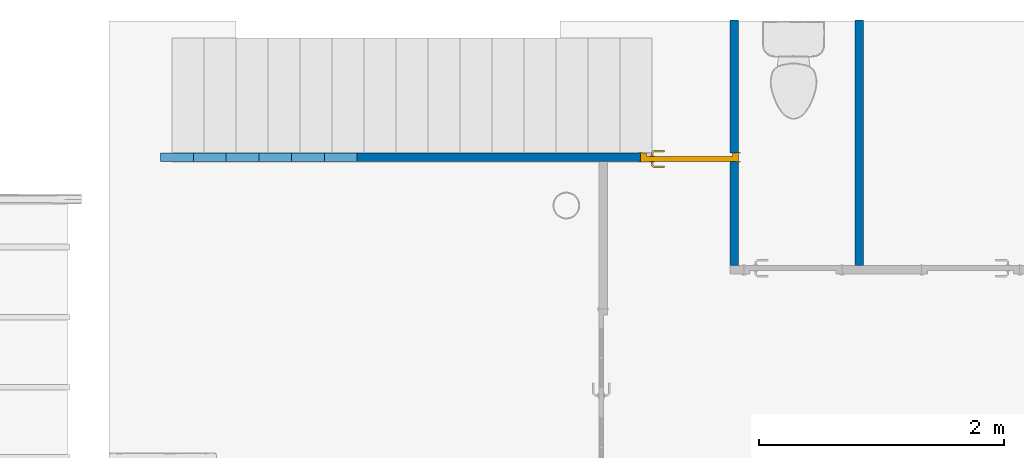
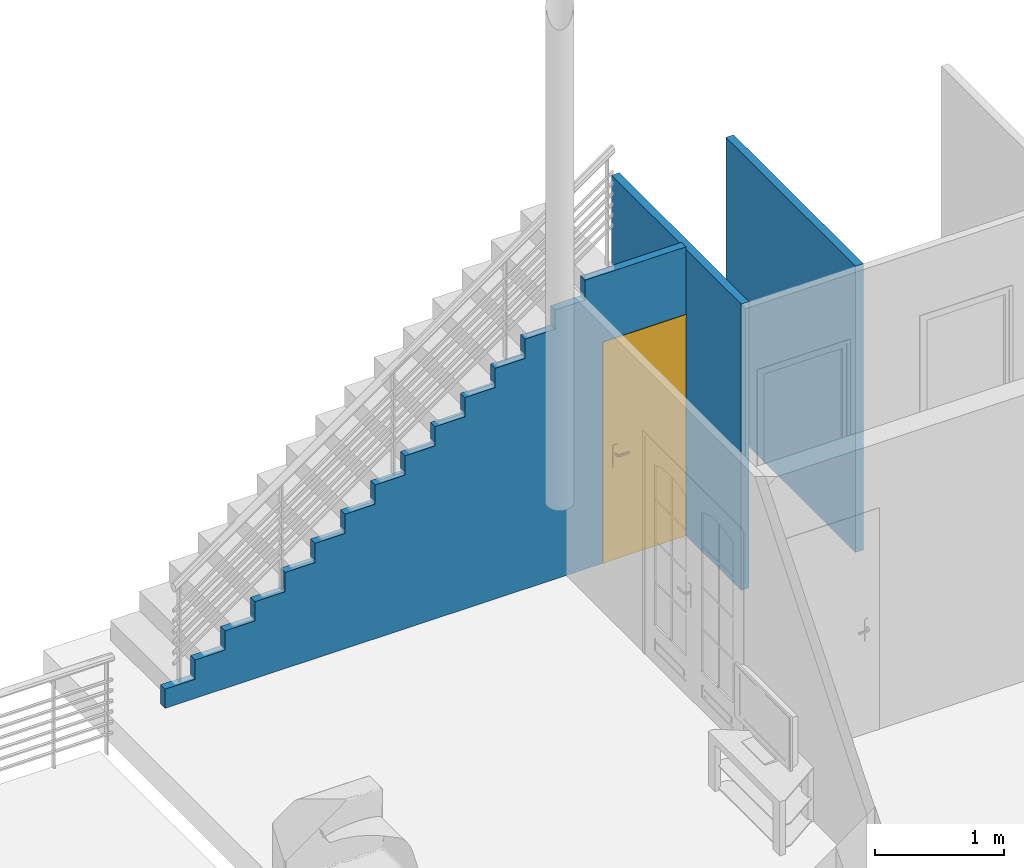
# One storey, part 6 of 15: 3 walls, 1 door, 3 openings.
"""IFC2X3 building model written with IfcOpenShell, lengths in metres."""

from ifc_helpers import new_model, entity, si_unit, converted_unit, derived_unit, direction, frame, frame_2d, origin, place, context, subcontext, project, spatial, polyline, rectangle, outline, extrude, clip, halfspace, bounded_halfspace, faceted_brep, source, transform, mapped, material, material_list, layer, layer_set, layer_usage, type_object, type_shapes, element, fill, save


model = new_model("IFC2X3")

# Units and contexts
model_context = context("Model", 3, precision=1e-05, world=origin(), true_north=direction((6.12303176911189e-17, 1.0)))
body_context = subcontext(model_context, "Body", "Model", "MODEL_VIEW")
ifc_project = project(units=[si_unit("LENGTHUNIT", "METRE"), si_unit("AREAUNIT", "SQUARE_METRE"), si_unit("VOLUMEUNIT", "CUBIC_METRE"), converted_unit("PLANEANGLEUNIT", "DEGREE", entity("IfcRatioMeasure", 0.0174532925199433), si_unit("PLANEANGLEUNIT", "RADIAN"), dimensions=[0, 0, 0, 0, 0, 0, 0]), si_unit("MASSUNIT", "GRAM", prefix="KILO"), derived_unit("MASSDENSITYUNIT", [(si_unit("MASSUNIT", "GRAM", prefix="KILO"), 1), (si_unit("LENGTHUNIT", "METRE"), -3)]), derived_unit("MOMENTOFINERTIAUNIT", [(si_unit("LENGTHUNIT", "METRE"), 4)]), si_unit("TIMEUNIT", "SECOND"), si_unit("FREQUENCYUNIT", "HERTZ"), si_unit("THERMODYNAMICTEMPERATUREUNIT", "DEGREE_CELSIUS"), derived_unit("THERMALTRANSMITTANCEUNIT", [(si_unit("MASSUNIT", "GRAM", prefix="KILO"), 1), (si_unit("THERMODYNAMICTEMPERATUREUNIT", "KELVIN"), -1), (si_unit("TIMEUNIT", "SECOND"), -3)]), derived_unit("VOLUMETRICFLOWRATEUNIT", [(si_unit("LENGTHUNIT", "METRE"), 3), (si_unit("TIMEUNIT", "SECOND"), -1)]), si_unit("ELECTRICCURRENTUNIT", "AMPERE"), si_unit("ELECTRICVOLTAGEUNIT", "VOLT"), si_unit("POWERUNIT", "WATT"), si_unit("FORCEUNIT", "NEWTON", prefix="KILO"), si_unit("ILLUMINANCEUNIT", "LUX"), si_unit("LUMINOUSFLUXUNIT", "LUMEN"), si_unit("LUMINOUSINTENSITYUNIT", "CANDELA"), derived_unit("USERDEFINED", [(si_unit("MASSUNIT", "GRAM", prefix="KILO"), -1), (si_unit("LENGTHUNIT", "METRE"), -2), (si_unit("TIMEUNIT", "SECOND"), 3), (si_unit("LUMINOUSFLUXUNIT", "LUMEN"), 1)]), derived_unit("LINEARVELOCITYUNIT", [(si_unit("LENGTHUNIT", "METRE"), 1), (si_unit("TIMEUNIT", "SECOND"), -1)]), si_unit("PRESSUREUNIT", "PASCAL"), derived_unit("USERDEFINED", [(si_unit("LENGTHUNIT", "METRE"), -2), (si_unit("MASSUNIT", "GRAM", prefix="KILO"), 1), (si_unit("TIMEUNIT", "SECOND"), -2)]), derived_unit("LINEARFORCEUNIT", [(si_unit("MASSUNIT", "GRAM", prefix="KILO"), 1), (si_unit("LENGTHUNIT", "METRE"), 1), (si_unit("TIMEUNIT", "SECOND"), -2), (si_unit("LENGTHUNIT", "METRE"), -1)]), derived_unit("PLANARFORCEUNIT", [(si_unit("MASSUNIT", "GRAM", prefix="KILO"), 1), (si_unit("LENGTHUNIT", "METRE"), 1), (si_unit("TIMEUNIT", "SECOND"), -2), (si_unit("LENGTHUNIT", "METRE"), -2)])], contexts=[model_context])

# Site, building, storey
site_placement = place(None, origin())
site = spatial("IfcSite", under=ifc_project, at=site_placement, Name="Surface", CompositionType="ELEMENT")
building_placement = place(site_placement, origin())
building = spatial("IfcBuilding", under=site, at=building_placement, CompositionType="ELEMENT")
storey_placement = place(building_placement, frame((0.0, 0.0, 2.65)))
storey = spatial("IfcBuildingStorey", under=building, at=storey_placement, Name="Niveau étage", CompositionType="ELEMENT", Elevation=2.65)

# Wall, openings, door
ifc_material_1 = material(Name="Mur par défaut")
ifc_layer = layer(ifc_material_1, 0.07)
ifc_layer_set = layer_set([ifc_layer], Name="Mur de base:Int. Plâtre 7cm")
ifc_layer_usage_1 = layer_usage(ifc_layer_set, "AXIS2", "NEGATIVE", 0.035)
wall_type = type_object("IfcWallType", Name="Mur de base:Int. Plâtre 7cm", PredefinedType="STANDARD", material=ifc_layer_set)
wall_1_placement = place(storey_placement, frame((2.31226672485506, 5.88973483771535, 0.0)))
wall_1 = element("IfcWallStandardCase", 1, at=wall_1_placement, inside=storey, type_object=wall_type, material=ifc_layer_usage_1, Name="Mur de base:Int. Plâtre 7cm", ObjectType="Mur de base:Int. Plâtre 7cm", context=body_context, shape_type="Clipping", body=[
    clip(extrude(rectangle(XDim=4.64712935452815, YDim=0.0699999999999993, at=frame_2d((2.32356467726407, -1.90819582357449e-16), x_axis=(-1.0, 0.0))), origin(), (0.0, 0.0, 1.0), 2.72499999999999), halfspace(frame((3.745, -0.0350000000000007, 2.72499999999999), z_axis=(0.0, 0.0, 1.0), x_axis=(0.0, 1.0, 0.0)), False)),
])
opening_1_placement = place(wall_1_placement, origin())
element("IfcOpeningElement", 2, at=opening_1_placement, cuts=wall_1, Name="Mur de base:Int. Plâtre 7cm", ObjectType="Opening", context=body_context, shape_type="SweptSolid", body=[
    extrude(outline(polyline([(-1.8725, -1.27458333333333), (1.8725, -1.27458333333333), (1.8725, 1.26916666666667), (1.605, 1.26916666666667), (1.605, 1.08791666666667), (1.3375, 1.08791666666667), (1.3375, 0.906666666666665), (1.07, 0.906666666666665), (1.07, 0.725416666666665), (0.802500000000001, 0.725416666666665), (0.802500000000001, 0.544166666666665), (0.535, 0.544166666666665), (0.535, 0.362916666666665), (0.2675, 0.362916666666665), (0.2675, 0.181666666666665), (0.0, 0.181666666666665), (0.0, 0.000416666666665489), (-0.267499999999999, 0.000416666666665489), (-0.267499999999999, -0.180833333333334), (-0.534999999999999, -0.180833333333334), (-0.534999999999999, -0.362083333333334), (-0.802499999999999, -0.362083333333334), (-0.802499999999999, -0.543333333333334), (-1.07, -0.543333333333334), (-1.07, -0.724583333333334), (-1.3375, -0.724583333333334), (-1.3375, -0.905833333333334), (-1.605, -0.905833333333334), (-1.605, -1.08708333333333), (-1.8725, -1.08708333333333), (-1.8725, -1.27458333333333)])), frame((1.8725, 0.0350000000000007, 1.45041666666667), z_axis=(0.0, -1.0, 0.0), x_axis=(-1.0, 0.0, 0.0)), (0.0, 0.0, 1.0), 0.07),
])
opening_2_placement = place(wall_1_placement, frame((4.71712935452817, 0.0350000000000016, 0.0)))
opening_2 = element("IfcOpeningElement", 3, at=opening_2_placement, cuts=wall_1, Name="Int. Simple:PP (0.73m x 2.04m):1", ObjectType="Opening", context=body_context, shape_type="SweptSolid", body=[
    extrude(rectangle(XDim=2.075, YDim=0.799999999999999, at=frame_2d((1.0375, 0.4), x_axis=(1.0, 0.0))), frame((0.0, 0.0, 0.0), z_axis=(0.0, -1.0, 0.0), x_axis=(0.0, 0.0, 1.0)), (0.0, 0.0, 1.0), 0.07),
])
ifc_material_2 = material(Name="Finition Peinture - Blanc satiné")
ifc_material_3 = material(Name="Bois - Panneau de porte")
ifc_material_4 = material(Name="Bois - Cadre de porte")
ifc_material_list_1 = material_list([ifc_material_2, ifc_material_3, ifc_material_4])
ifc_material_list_2 = material_list([ifc_material_4, ifc_material_3, ifc_material_2])
door_style = type_object("IfcDoorStyle", Name="Int. Simple:PP (0.73m x 2.04m)", ConstructionType="NOTDEFINED", OperationType="NOTDEFINED", ParameterTakesPrecedence=False, Sizeable=False, material=ifc_material_list_2)
shared_shape = source(origin(), body_context, "Body", "Brep", [
    faceted_brep([(0.105352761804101, -0.00500000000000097, 0.866003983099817), (0.115, -0.00500000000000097, 0.870000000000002), (0.114999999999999, -0.00500000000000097, 1.08), (0.1053527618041, -0.00500000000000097, 1.08399601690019), (0.0949999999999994, -0.00500000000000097, 1.08535898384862), (0.0846472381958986, -0.00500000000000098, 1.08399601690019), (0.0749999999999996, -0.00500000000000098, 1.08), (0.0750000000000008, -0.00500000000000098, 0.870000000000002), (0.0846472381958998, -0.00500000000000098, 0.866003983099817), (0.0950000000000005, -0.00500000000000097, 0.86464101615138), (0.1053527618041, 0.0, 1.08399601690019), (0.114999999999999, 0.0, 1.08), (0.115, 0.0, 0.870000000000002), (0.105352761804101, 0.0, 0.866003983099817), (0.0950000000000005, 0.0, 0.86464101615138), (0.0846472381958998, 0.0, 0.866003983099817), (0.0749999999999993, 0.0, 0.870000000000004), (0.0749999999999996, 0.0, 1.08), (0.0846472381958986, 0.0, 1.08399601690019), (0.0949999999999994, 0.0, 1.08535898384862)], [[[0, 1, 2, 3, 4, 5, 6, 7, 8, 9]], [[10, 11, 12, 13, 14, 15, 16, 17, 18, 19]], [[16, 15, 8, 7]], [[8, 15, 14, 9]], [[14, 13, 0, 9]], [[13, 12, 1, 0]], [[2, 1, 12, 11]], [[11, 10, 3, 2]], [[3, 10, 19, 4]], [[19, 18, 5, 4]], [[18, 17, 6, 5]], [[7, 6, 17, 16]]]),
    faceted_brep([(0.105352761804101, 0.039999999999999, 0.866003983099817), (0.115, 0.039999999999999, 0.870000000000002), (0.114999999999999, 0.039999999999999, 1.08), (0.1053527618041, 0.039999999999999, 1.08399601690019), (0.094999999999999, 0.039999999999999, 1.08535898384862), (0.0846472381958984, 0.039999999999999, 1.08399601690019), (0.0749999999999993, 0.039999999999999, 1.08), (0.0750000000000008, 0.039999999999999, 0.870000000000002), (0.0846472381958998, 0.039999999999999, 0.866003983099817), (0.0950000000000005, 0.039999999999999, 0.86464101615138), (0.1053527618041, 0.044999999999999, 1.08399601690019), (0.114999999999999, 0.044999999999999, 1.08), (0.115, 0.044999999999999, 0.870000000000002), (0.105352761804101, 0.044999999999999, 0.866003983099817), (0.0950000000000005, 0.044999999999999, 0.86464101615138), (0.0846472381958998, 0.044999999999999, 0.866003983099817), (0.0749999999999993, 0.044999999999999, 0.870000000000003), (0.0749999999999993, 0.044999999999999, 1.08), (0.0846472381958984, 0.044999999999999, 1.08399601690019), (0.094999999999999, 0.044999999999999, 1.08535898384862)], [[[0, 1, 2, 3, 4, 5, 6, 7, 8, 9]], [[10, 11, 12, 13, 14, 15, 16, 17, 18, 19]], [[11, 10, 3, 2]], [[3, 10, 19, 4]], [[19, 18, 5, 4]], [[18, 17, 6, 5]], [[7, 6, 17, 16]], [[16, 15, 8, 7]], [[8, 15, 14, 9]], [[14, 13, 0, 9]], [[13, 12, 1, 0]], [[2, 1, 12, 11]]]),
    faceted_brep([(0.0929747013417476, -0.00500000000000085, 1.00778044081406), (0.0970252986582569, -0.00500000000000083, 1.00778044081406), (0.101000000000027, -0.00500000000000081, 1.00699999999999), (0.101000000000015, -0.00500000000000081, 0.993000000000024), (0.0970252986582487, -0.00500000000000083, 0.992219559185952), (0.0929747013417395, -0.00500000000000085, 0.99221955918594), (0.0889999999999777, -0.00500000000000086, 0.992999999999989), (0.0889999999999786, -0.00500000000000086, 1.007), (0.0889999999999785, -0.0326509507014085, 1.007), (0.0929747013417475, -0.0310045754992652, 1.00778044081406), (0.109023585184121, -0.047053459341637, 1.00778044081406), (0.110701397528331, -0.0430028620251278, 1.00778044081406), (0.0970252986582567, -0.0293267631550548, 1.00778044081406), (0.101000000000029, -0.0276803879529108, 1.007), (0.101000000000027, -0.0276803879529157, 0.993000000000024), (0.0970252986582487, -0.0293267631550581, 0.992219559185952), (0.110701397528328, -0.0430028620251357, 0.992219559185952), (0.109023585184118, -0.0470534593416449, 0.99221955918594), (0.0929747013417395, -0.0310045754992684, 0.99221955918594), (0.0889999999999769, -0.0326509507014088, 0.992999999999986), (0.107377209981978, -0.051028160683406, 1.007), (0.112347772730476, -0.039028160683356, 1.007), (0.112347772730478, -0.0390281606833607, 0.993000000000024), (0.107377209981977, -0.0510281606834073, 0.992999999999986), (0.195018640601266, -0.051028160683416, 0.992999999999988), (0.195018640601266, -0.0470534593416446, 0.99221955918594), (0.195018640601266, -0.0430028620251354, 0.992219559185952), (0.195018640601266, -0.0390281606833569, 0.993000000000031), (0.195018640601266, -0.0390281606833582, 1.007), (0.195018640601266, -0.0430028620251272, 1.00778044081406), (0.195018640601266, -0.0470534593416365, 1.00778044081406), (0.195018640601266, -0.0510281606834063, 1.00699999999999), (0.147307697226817, -0.0510281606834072, 1.007), (0.152860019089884, -0.0450281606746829, 1.0078786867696), (0.15368320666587, -0.0390281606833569, 1.007), (0.153683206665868, -0.0390281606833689, 0.993000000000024), (0.152860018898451, -0.0450281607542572, 0.992121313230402), (0.147307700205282, -0.0510281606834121, 0.992999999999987)], [[[0, 1, 2, 3, 4, 5, 6, 7]], [[8, 9, 0, 7]], [[9, 10, 11, 12, 1, 0]], [[12, 13, 2, 1]], [[3, 2, 13, 14]], [[14, 15, 4, 3]], [[15, 16, 17, 18, 5, 4]], [[18, 19, 6, 5]], [[7, 6, 19, 8]], [[20, 10, 9, 8]], [[11, 21, 13, 12]], [[14, 13, 21, 22]], [[22, 16, 15, 14]], [[17, 23, 19, 18]], [[8, 19, 23, 20]], [[24, 25, 26, 27, 28, 29, 30, 31]], [[32, 30, 33]], [[31, 30, 32]], [[10, 20, 32]], [[33, 34, 11]], [[21, 11, 34]], [[34, 29, 28]], [[30, 29, 33]], [[29, 34, 33]], [[10, 32, 33]], [[10, 33, 11]], [[22, 21, 34, 28, 27, 35]], [[35, 26, 36]], [[37, 36, 25]], [[22, 35, 16]], [[35, 27, 26]], [[24, 37, 25]], [[23, 17, 37]], [[37, 17, 36]], [[17, 16, 36]], [[16, 35, 36]], [[25, 36, 26]], [[20, 23, 37, 24, 31, 32]]]),
    faceted_brep([(0.0929747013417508, 0.0449999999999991, 1.00778044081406), (0.0889999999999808, 0.0449999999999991, 1.007), (0.0889999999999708, 0.0449999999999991, 0.992999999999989), (0.0929747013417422, 0.0449999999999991, 0.99221955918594), (0.0970252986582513, 0.0449999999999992, 0.992219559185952), (0.10100000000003, 0.0449999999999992, 0.993000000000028), (0.101000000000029, 0.0449999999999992, 1.007), (0.0970252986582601, 0.0449999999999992, 1.00778044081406), (0.10100000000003, 0.0674852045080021, 0.993000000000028), (0.10100000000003, 0.0674852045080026, 1.007), (0.0970252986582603, 0.0691315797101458, 1.00778044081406), (0.110838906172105, 0.0829451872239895, 1.00778044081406), (0.109161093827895, 0.0869957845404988, 1.00778044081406), (0.092974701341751, 0.070809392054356, 1.00778044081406), (0.0889999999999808, 0.0724557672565, 1.007), (0.0889999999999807, 0.0724557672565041, 0.992999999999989), (0.0929747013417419, 0.0708093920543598, 0.99221955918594), (0.109161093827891, 0.0869957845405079, 0.99221955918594), (0.110838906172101, 0.0829451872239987, 0.992219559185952), (0.0970252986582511, 0.0691315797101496, 0.992219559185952), (0.112485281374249, 0.0789704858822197, 0.993000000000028), (0.112485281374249, 0.07897048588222, 1.007), (0.107514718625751, 0.090970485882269, 1.007), (0.107514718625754, 0.0909704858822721, 0.992999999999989), (0.195045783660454, 0.0789704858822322, 0.993000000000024), (0.195045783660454, 0.0829451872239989, 0.992219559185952), (0.195045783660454, 0.0869957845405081, 0.99221955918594), (0.195045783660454, 0.0909704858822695, 0.992999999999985), (0.195045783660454, 0.0909704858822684, 1.007), (0.195045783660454, 0.0869957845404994, 1.00778044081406), (0.195045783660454, 0.0829451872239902, 1.00778044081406), (0.195045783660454, 0.07897048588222, 1.007), (0.153765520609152, 0.0789704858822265, 0.993000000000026), (0.153765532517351, 0.0789704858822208, 1.007), (0.152942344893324, 0.0849704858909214, 1.0078786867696), (0.147445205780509, 0.0909704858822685, 1.007), (0.147445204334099, 0.0909704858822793, 0.992999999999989), (0.152942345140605, 0.0849704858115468, 0.992121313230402)], [[[0, 1, 2, 3, 4, 5, 6, 7]], [[6, 5, 8, 9]], [[9, 10, 7, 6]], [[10, 11, 12, 13, 0, 7]], [[13, 14, 1, 0]], [[2, 1, 14, 15]], [[15, 16, 3, 2]], [[16, 17, 18, 19, 4, 3]], [[19, 8, 5, 4]], [[9, 8, 20, 21]], [[21, 11, 10, 9]], [[12, 22, 14, 13]], [[15, 14, 22, 23]], [[23, 17, 16, 15]], [[18, 20, 8, 19]], [[24, 25, 26, 27, 28, 29, 30, 31]], [[21, 20, 32, 24, 31, 33]], [[33, 30, 34]], [[35, 34, 29]], [[21, 33, 11]], [[33, 31, 30]], [[28, 35, 29]], [[22, 12, 35]], [[35, 12, 34]], [[12, 11, 34]], [[11, 33, 34]], [[29, 34, 30]], [[22, 35, 28, 27, 36, 23]], [[36, 26, 37]], [[27, 26, 36]], [[17, 23, 36]], [[37, 32, 18]], [[20, 18, 32]], [[32, 25, 24]], [[26, 25, 37]], [[25, 32, 37]], [[17, 36, 37]], [[17, 37, 18]]]),
    faceted_brep([(0.0349999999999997, 0.0400000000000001, 2.04), (0.765, 0.0400000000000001, 2.04), (0.765, 0.0400000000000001, 0.0), (0.0349999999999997, 0.0400000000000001, 0.0), (0.0349999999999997, 0.0, 2.04), (0.0349999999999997, 0.0, 0.0), (0.765, 0.0, 0.0), (0.765, 0.0, 2.04)], [[[0, 1, 2, 3]], [[4, 5, 6, 7]], [[1, 0, 4, 7]], [[2, 1, 7, 6]], [[3, 2, 6, 5]], [[0, 3, 5, 4]]]),
    faceted_brep([(0.0, 0.0, 0.0), (0.0, 0.0699999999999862, 0.0), (0.0500000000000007, 0.0699999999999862, 0.0), (0.0500000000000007, 0.04, 0.0), (0.0349999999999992, 0.04, 0.0), (0.0349999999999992, 0.0, 0.0), (0.0, 0.0, 2.07500000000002), (0.0, 0.0699999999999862, 2.07500000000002), (0.800000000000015, 0.0699999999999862, 2.07500000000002), (0.800000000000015, 0.0699999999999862, 0.0), (0.749999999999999, 0.0699999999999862, 0.0), (0.749999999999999, 0.0699999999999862, 2.025), (0.0500000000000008, 0.0699999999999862, 2.025), (0.0500000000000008, 0.04, 2.025), (0.749999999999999, 0.04, 2.025), (0.749999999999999, 0.04, 0.0), (0.765000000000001, 0.04, 0.0), (0.765000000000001, 0.04, 2.04), (0.0349999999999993, 0.04, 2.04), (0.0349999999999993, 0.0, 2.04), (0.765000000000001, 0.0, 2.04), (0.765000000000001, 0.0, 0.0), (0.800000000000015, 0.0, 0.0), (0.800000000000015, 0.0, 2.07500000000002)], [[[0, 1, 2, 3, 4, 5]], [[1, 0, 6, 7]], [[2, 1, 7, 8, 9, 10, 11, 12]], [[3, 2, 12, 13]], [[4, 3, 13, 14, 15, 16, 17, 18]], [[5, 4, 18, 19]], [[0, 5, 19, 20, 21, 22, 23, 6]], [[8, 23, 22, 9]], [[22, 21, 16, 15, 10, 9]], [[14, 11, 10, 15]], [[20, 17, 16, 21]], [[7, 6, 23, 8]], [[13, 12, 11, 14]], [[19, 18, 17, 20]]]),
    faceted_brep([(0.0149999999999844, 0.0699999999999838, 0.0), (-0.0150000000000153, 0.0699999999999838, 0.0), (-0.0150000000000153, 0.0749999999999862, 0.0), (0.0149999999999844, 0.0749999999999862, 0.0), (0.0149999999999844, 0.0699999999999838, 2.06000000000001), (0.784999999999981, 0.0699999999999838, 2.06000000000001), (0.784999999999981, 0.0699999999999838, 0.0), (0.81499999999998, 0.0699999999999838, 0.0), (0.81499999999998, 0.0699999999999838, 2.09000000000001), (-0.0150000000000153, 0.0699999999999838, 2.09000000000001), (-0.0150000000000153, 0.0749999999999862, 2.09000000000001), (0.81499999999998, 0.0749999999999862, 2.09000000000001), (0.81499999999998, 0.0749999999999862, 0.0), (0.784999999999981, 0.0749999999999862, 0.0), (0.784999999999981, 0.0749999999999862, 2.06000000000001), (0.0149999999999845, 0.0749999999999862, 2.06000000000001)], [[[0, 1, 2, 3]], [[1, 0, 4, 5, 6, 7, 8, 9]], [[2, 1, 9, 10]], [[3, 2, 10, 11, 12, 13, 14, 15]], [[0, 3, 15, 4]], [[6, 13, 12, 7]], [[5, 14, 13, 6]], [[11, 8, 7, 12]], [[10, 9, 8, 11]], [[4, 15, 14, 5]]]),
    faceted_brep([(-0.0150000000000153, -0.00499999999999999, 0.0), (0.0149999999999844, -0.00499999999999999, 0.0), (0.0149999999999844, -0.00499999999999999, 2.06000000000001), (0.784999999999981, -0.00499999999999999, 2.06000000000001), (0.784999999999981, -0.00499999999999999, 0.0), (0.81499999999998, -0.00499999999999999, 0.0), (0.81499999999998, -0.00499999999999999, 2.09000000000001), (-0.0150000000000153, -0.00499999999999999, 2.09000000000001), (-0.0150000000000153, 0.0, 0.0), (-0.0150000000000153, 0.0, 2.09000000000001), (0.0149999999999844, 0.0, 0.0), (0.81499999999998, 0.0, 2.09000000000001), (0.81499999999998, 0.0, 0.0), (0.784999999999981, 0.0, 0.0), (0.784999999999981, 0.0, 2.06000000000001), (0.0149999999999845, 0.0, 2.06000000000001)], [[[0, 1, 2, 3, 4, 5, 6, 7]], [[8, 0, 7, 9]], [[10, 8, 9, 11, 12, 13, 14, 15]], [[1, 10, 15, 2]], [[3, 14, 13, 4]], [[11, 6, 5, 12]], [[9, 7, 6, 11]], [[2, 15, 14, 3]], [[4, 13, 12, 5]], [[1, 0, 8, 10]]]),
])
type_shapes(door_style, [shared_shape])
door_placement = place(opening_2_placement, frame((-0.8, -0.0700000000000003, 0.0)))
door = element("IfcDoor", 4, at=door_placement, inside=storey, type_object=door_style, material=ifc_material_list_1, Name="Int. Simple:PP (0.73m x 2.04m)", ObjectType="Int. Simple:PP (0.73m x 2.04m)", OverallHeight=2.075, OverallWidth=0.8, context=body_context, shape_type="MappedRepresentation", body=[
    mapped(shared_shape, transform((0.0, 0.0, 0.0), scale=1.0)),
])
fill(opening_2, door)

# Wall, opening
ifc_layer_usage_2 = layer_usage(ifc_layer_set, "AXIS2", "NEGATIVE", 0.035)
wall_2_placement = place(storey_placement, frame((6.99439607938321, 5.00425810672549, 0.0), z_axis=(0.0, 0.0, 1.0), x_axis=(0.0, 1.0, 0.0)))
wall_2 = element("IfcWallStandardCase", 5, at=wall_2_placement, inside=storey, type_object=wall_type, material=ifc_layer_usage_2, Name="Mur de base:Int. Plâtre 7cm", ObjectType="Mur de base:Int. Plâtre 7cm", context=body_context, shape_type="Clipping", body=[
    clip(extrude(rectangle(XDim=2.005, YDim=0.0699999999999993, at=frame_2d((1.0025, 2.63677968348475e-16), x_axis=(-1.0, 0.0))), origin(), (0.0, 0.0, 1.0), 2.7), bounded_halfspace(frame((0.0, -0.0350000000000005, 2.7), z_axis=(0.0, 0.0, -1.0), x_axis=(0.0, 1.0, 0.0)), True, frame((0.0, -0.0350000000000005, 2.7)), polyline([(0.0, 0.0), (2.005, 0.0), (2.005, 0.0700000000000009), (0.0, 0.0700000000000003), (0.0, 0.0)]))),
])
opening_3_placement = place(wall_2_placement, origin())
element("IfcOpeningElement", 6, at=opening_3_placement, cuts=wall_2, Name="Mur de base:Int. Plâtre 7cm", ObjectType="Opening", context=body_context, shape_type="SweptSolid", body=[
    extrude(rectangle(XDim=2.075, YDim=0.0700000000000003, at=frame_2d((5.41233724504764e-16, 3.33066907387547e-16), x_axis=(0.0, 1.0))), frame((0.885476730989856, -0.0350000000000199, 1.0375), z_axis=(0.0, 1.0, 0.0), x_axis=(1.0, 0.0, 0.0)), (0.0, 0.0, 1.0), 0.8),
])

# Wall
ifc_layer_usage_3 = layer_usage(ifc_layer_set, "AXIS2", "NEGATIVE", 0.035)
wall_3_placement = place(storey_placement, frame((8.01439607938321, 5.00425810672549, 0.0), z_axis=(0.0, 0.0, 1.0), x_axis=(0.0, 1.0, 0.0)))
element("IfcWallStandardCase", 7, at=wall_3_placement, inside=storey, type_object=wall_type, material=ifc_layer_usage_3, Name="Mur de base:Int. Plâtre 7cm", ObjectType="Mur de base:Int. Plâtre 7cm", context=body_context, shape_type="Clipping", body=[
    clip(extrude(rectangle(XDim=2.005, YDim=0.0699999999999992, at=frame_2d((1.0025, 2.28983498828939e-16), x_axis=(-1.0, 0.0))), origin(), (0.0, 0.0, 1.0), 2.7), bounded_halfspace(frame((0.0, -0.0350000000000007, 2.7), z_axis=(0.0, 0.0, -1.0), x_axis=(0.0, 1.0, 0.0)), True, frame((0.0, -0.0350000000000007, 2.7)), polyline([(0.0, 0.0), (2.005, 0.0), (2.005, 0.0700000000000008), (0.0, 0.0700000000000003), (0.0, 0.0)]))),
])

save(model, "model.ifc")
